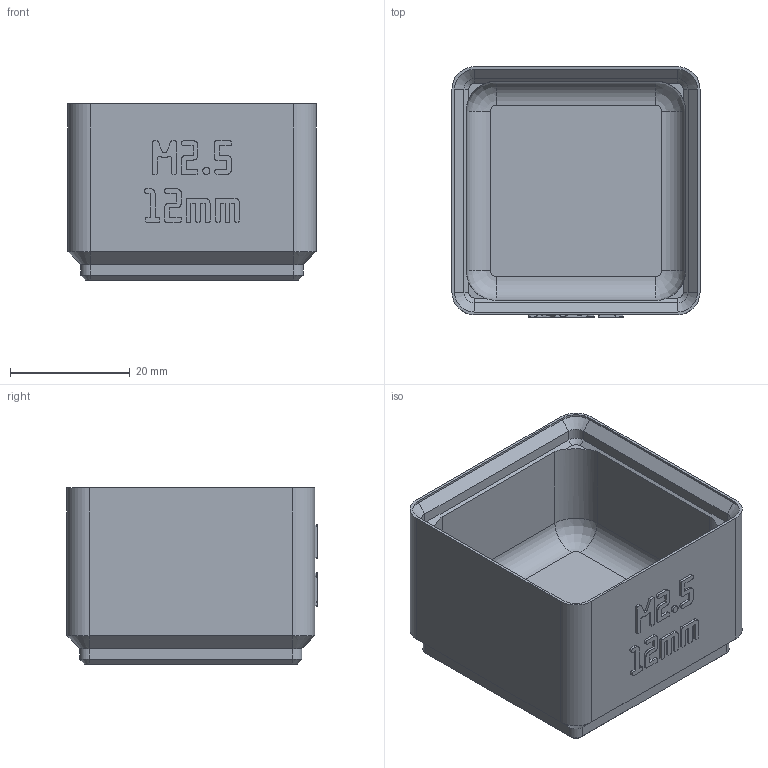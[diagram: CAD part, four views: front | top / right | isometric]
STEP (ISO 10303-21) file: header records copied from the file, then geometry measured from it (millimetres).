
FILE_DESCRIPTION(('Open CASCADE Model'),'2;1');
FILE_NAME('Open CASCADE Shape Model','2026-11-03T10:23:23',('Author'),( 'Open CASCADE'),'Open CASCADE STEP processor 8.0','build123d', 'Unknown');
FILE_SCHEMA(('AUTOMOTIVE_DESIGN { 1 0 10303 214 1 1 1 1 }'));
Products named in the file (1): COMPOUND
Bounding box: 41.5 x 41.9 x 29.5 mm (x, y, z)
Volume: 18943 mm3; surface area: 10655.8 mm2
Topology: 1 solids, 1 shells, 841 faces, 2434 edges, 1604 vertices
Faces by surface type: plane 797, cylinder 24, cone 16, revolution 4
Entity records: 57140 total; most frequent: CARTESIAN_POINT 11596, DIRECTION 7342, LINE 5506, VECTOR 5506, ORIENTED_EDGE 4868, PCURVE 4868, DEFINITIONAL_REPRESENTATION 4868, EDGE_CURVE 2434
